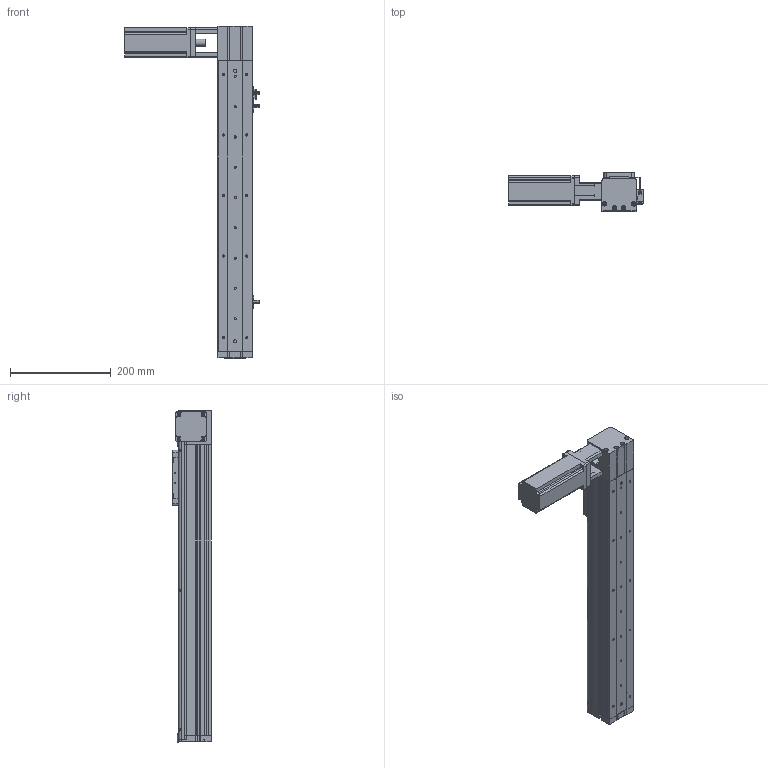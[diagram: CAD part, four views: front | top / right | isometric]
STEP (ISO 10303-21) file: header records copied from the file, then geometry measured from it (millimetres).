
FILE_DESCRIPTION (( 'STEP AP214' ), '1' );
FILE_NAME ('KSD68BS-S400-MLT-CR.STEP', '2019-08-28T03:18:41', ( '微软用户' ), ( '微软中国' ), 'SwSTEP 2.0', 'SolidWorks 2014', '' );
FILE_SCHEMA (( 'AUTOMOTIVE_DESIGN' ));
Length unit declared in the file: millimetre
Products named in the file (13): 68单导轨全封闭同步带电机座右; 68单导轨全封闭同步带安装板; 感应片68宽全封闭; U倰嫖萇EEㄜSX672; 台达ECMA－C20604AS伺服电机（400W); KSD68BS 400行程底板全封闭; KSD68BS-S400-MLT-CR; 100遵鎮湛假蚾啣1; KSD68BS 400行程盖板全封闭; 68遵裔啣揤啣1; 68宽单导轨全封闭丝杆传动安装板1防护罩; KSD68BS 400行程侧板全封闭; 68宽单导轨全封闭同步带端板
Assembly tree (16 placements, depth 2):
  KSD68BS-S400-MLT-CR
    KSD68BS 400行程底板全封闭
    台达ECMA－C20604AS伺服电机（400W)
    U倰嫖萇EEㄜSX672  x3
    感应片68宽全封闭
    68单导轨全封闭同步带安装板
    68单导轨全封闭同步带电机座右
    68宽单导轨全封闭同步带端板
    KSD68BS 400行程侧板全封闭  x2
    68宽单导轨全封闭丝杆传动安装板1防护罩
    68遵裔啣揤啣1  x2
    KSD68BS 400行程盖板全封闭
    100遵鎮湛假蚾啣1
Bounding box: 266.4 x 77 x 658.1 mm (x, y, z)
Volume: 1678201.6 mm3; surface area: 551872.6 mm2
Topology: 17 solids, 17 shells, 1316 faces, 3704 edges, 2379 vertices
Faces by surface type: plane 596, cylinder 588, cone 132
Entity records: 40645 total; most frequent: CARTESIAN_POINT 6755, DIRECTION 6100, ORIENTED_EDGE 5844, EDGE_CURVE 2922, AXIS2_PLACEMENT_3D 2170, VERTEX_POINT 1917, LINE 1760, VECTOR 1760
